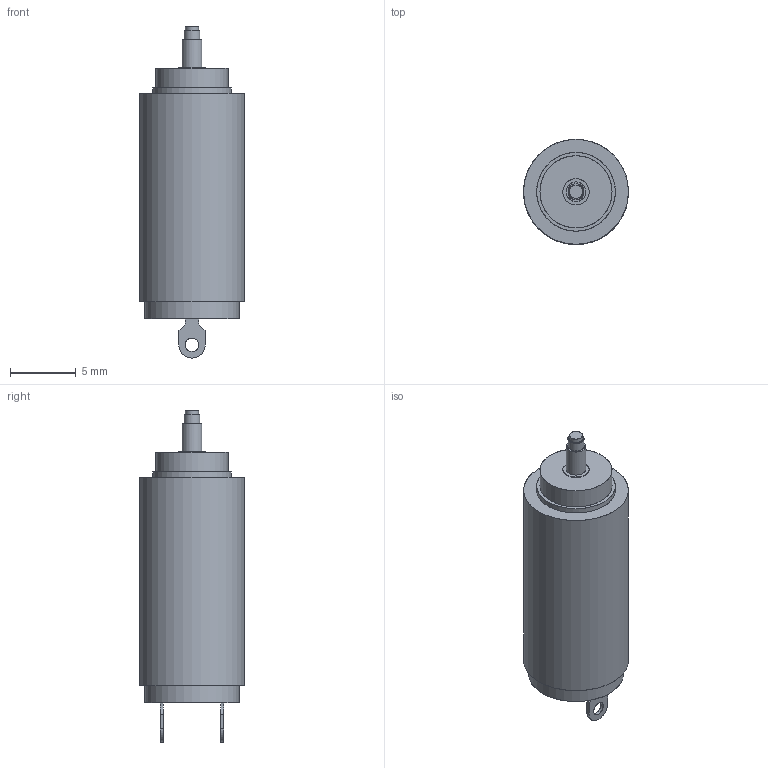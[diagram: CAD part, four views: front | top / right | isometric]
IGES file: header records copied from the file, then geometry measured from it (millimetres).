
Global section: file name: D:\Daten\0816sr.igs; native system: NX V7.5; preprocessor: SIEMENS PLM Software NX 7.5; author: DR. FRITZ FAULHABER GmbH & Co. KG; organization: DR. FRITZ FAULHABER GmbH & Co. KG; date: 20130128.121208; units: millimetre
Bounding box: 8 x 8 x 25.33 mm (x, y, z)
Surface area: 599.2 mm2 (no closed solid volume)
Topology: 0 solids, 0 shells, 33 faces, 272 edges, 272 vertices
Faces by surface type: bspline 33
